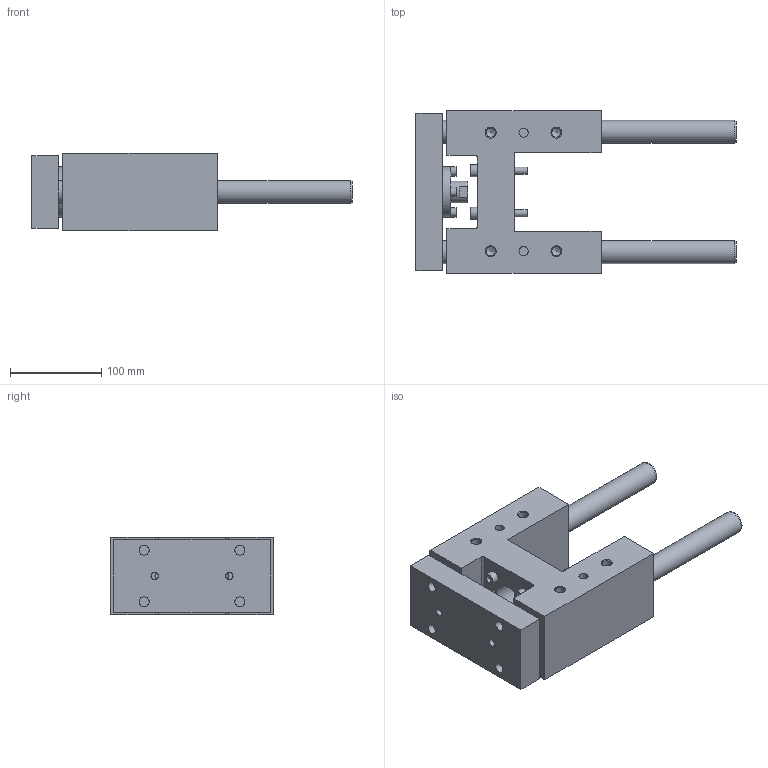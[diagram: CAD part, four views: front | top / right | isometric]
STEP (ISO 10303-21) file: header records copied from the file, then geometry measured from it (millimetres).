
FILE_DESCRIPTION( ( 'STEP AP214' ), '1' );
FILE_NAME( 'U:/Etudes/Top Solid/BIBLIO 3D AVM/TOP/PNEUMATIQUE/GUIDAGES/Type 32 (en H)/R_Renforcée/326R2_30.step', '2005-05-27T09:00:29', ( ' ' ), ( ' ' ), 'XStep 1.0', ' ', ' ' );
FILE_SCHEMA( ( 'automotive_design' ) );
Length unit declared in the file: metre
Products named in the file (2): 1; 2
Bounding box: 351 x 178 x 85 mm (x, y, z)
Volume: 2126294.1 mm3; surface area: 270505.1 mm2
Topology: 2 solids, 7 shells, 209 faces, 484 edges, 321 vertices
Faces by surface type: plane 118, cylinder 70, cone 21
Full cylindrical faces by diameter (mm): 6 x8, 6.5 x4, 8 x10, 8.376 x4, 9 x4, 10 x6, 10.106 x8, 11 x4, 13 x4, 14.376 x2, 18 x4, 24 x1, 25 x4, 26 x1, 34 x1, 37 x1, 40 x1, 55 x1
Entity records: 7089 total; most frequent: CARTESIAN_POINT 1103, DIRECTION 900, ORIENTED_EDGE 696, EDGE_LOOP 358, AXIS2_PLACEMENT_3D 349, EDGE_CURVE 348, VERTEX_POINT 280, FACE_OUTER_BOUND 277
